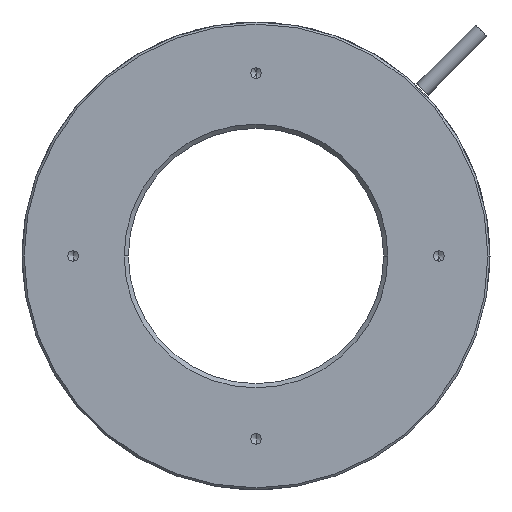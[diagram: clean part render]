
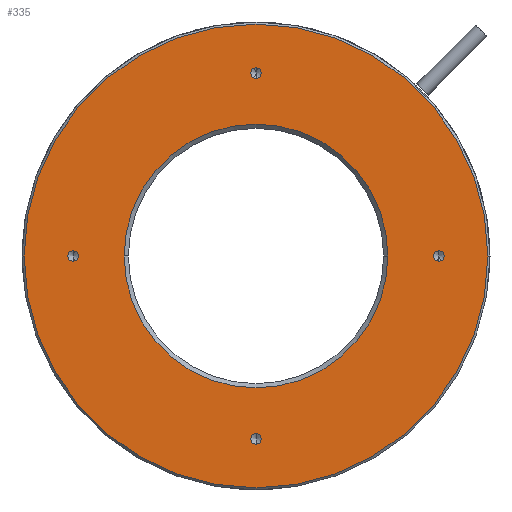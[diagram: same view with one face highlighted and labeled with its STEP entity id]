
A CAD part, front view. The second image highlights one B-rep face of the part: STEP entity #335.
In plain terms, the highlighted planar face has unit normal (0, -1, 0).
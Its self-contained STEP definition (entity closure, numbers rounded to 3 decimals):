
#108 = CARTESIAN_POINT ( 'NONE',  ( 0., 0., 0. ) ) ;
#305 = EDGE_LOOP ( 'NONE', ( #8584, #12136 ) ) ;
#335 = ADVANCED_FACE ( 'NONE', ( #19109, #19640, #13768, #21756, #14548, #1663 ), #7866, .T. ) ;
#746 = DIRECTION ( 'NONE',  ( 0., 1., 0. ) ) ;
#938 = ORIENTED_EDGE ( 'NONE', *, *, #7507, .T. ) ;
#983 = VERTEX_POINT ( 'NONE', #8697 ) ;
#1010 = DIRECTION ( 'NONE',  ( 0., 0., -1. ) ) ;
#1380 = DIRECTION ( 'NONE',  ( 1., 0., 0. ) ) ;
#1663 = FACE_BOUND ( 'NONE', #10806, .T. ) ;
#1853 = EDGE_CURVE ( 'NONE', #14786, #20976, #8643, .T. ) ;
#1994 = CIRCLE ( 'NONE', #20593, 54.5 ) ;
#2002 = CIRCLE ( 'NONE', #5621, 31. ) ;
#2133 = VERTEX_POINT ( 'NONE', #18318 ) ;
#2411 = DIRECTION ( 'NONE',  ( 1., 0., 0. ) ) ;
#2648 = CARTESIAN_POINT ( 'NONE',  ( 31., 0., 0. ) ) ;
#2736 = CIRCLE ( 'NONE', #5163, 1.25 ) ;
#2929 = DIRECTION ( 'NONE',  ( 1., 0., 0. ) ) ;
#3157 = VERTEX_POINT ( 'NONE', #18964 ) ;
#3221 = DIRECTION ( 'NONE',  ( 0., -1., 0. ) ) ;
#3386 = ORIENTED_EDGE ( 'NONE', *, *, #10053, .F. ) ;
#3578 = CARTESIAN_POINT ( 'NONE',  ( -43., 0., -1.25 ) ) ;
#4401 = EDGE_CURVE ( 'NONE', #10328, #18648, #1994, .T. ) ;
#4517 = DIRECTION ( 'NONE',  ( 0., -1., 0. ) ) ;
#4679 = CARTESIAN_POINT ( 'NONE',  ( 0., 0., -44.25 ) ) ;
#4753 = ORIENTED_EDGE ( 'NONE', *, *, #13261, .F. ) ;
#4819 = DIRECTION ( 'NONE',  ( 0., -1., 0. ) ) ;
#4927 = EDGE_CURVE ( 'NONE', #18343, #19855, #2736, .T. ) ;
#5008 = EDGE_LOOP ( 'NONE', ( #20722, #12158 ) ) ;
#5013 = VERTEX_POINT ( 'NONE', #4679 ) ;
#5099 = AXIS2_PLACEMENT_3D ( 'NONE', #8364, #3221, #15133 ) ;
#5163 = AXIS2_PLACEMENT_3D ( 'NONE', #16369, #17873, #11185 ) ;
#5621 = AXIS2_PLACEMENT_3D ( 'NONE', #13131, #11375, #1380 ) ;
#5739 = CARTESIAN_POINT ( 'NONE',  ( 43., 0., 1.25 ) ) ;
#5913 = DIRECTION ( 'NONE',  ( 0., 0., -1. ) ) ;
#5920 = EDGE_CURVE ( 'NONE', #5013, #9248, #8736, .T. ) ;
#5943 = AXIS2_PLACEMENT_3D ( 'NONE', #18064, #8005, #16347 ) ;
#6007 = CARTESIAN_POINT ( 'NONE',  ( 0., 0., 43. ) ) ;
#6812 = ORIENTED_EDGE ( 'NONE', *, *, #1853, .T. ) ;
#7184 = AXIS2_PLACEMENT_3D ( 'NONE', #6007, #10744, #1010 ) ;
#7507 = EDGE_CURVE ( 'NONE', #20976, #14786, #2002, .T. ) ;
#7708 = CARTESIAN_POINT ( 'NONE',  ( 0., 0., 0. ) ) ;
#7762 = DIRECTION ( 'NONE',  ( 0., 0., -1. ) ) ;
#7866 = PLANE ( 'NONE',  #5943 ) ;
#8005 = DIRECTION ( 'NONE',  ( 0., -1., 0. ) ) ;
#8364 = CARTESIAN_POINT ( 'NONE',  ( 43., 0., 0. ) ) ;
#8531 = EDGE_LOOP ( 'NONE', ( #938, #6812 ) ) ;
#8584 = ORIENTED_EDGE ( 'NONE', *, *, #5920, .F. ) ;
#8595 = ORIENTED_EDGE ( 'NONE', *, *, #4927, .F. ) ;
#8643 = CIRCLE ( 'NONE', #12586, 31. ) ;
#8697 = CARTESIAN_POINT ( 'NONE',  ( 0., 0., 44.25 ) ) ;
#8736 = CIRCLE ( 'NONE', #10764, 1.25 ) ;
#9101 = DIRECTION ( 'NONE',  ( 0., -1., 0. ) ) ;
#9248 = VERTEX_POINT ( 'NONE', #11934 ) ;
#9432 = CARTESIAN_POINT ( 'NONE',  ( 43., 0., -1.25 ) ) ;
#9695 = EDGE_CURVE ( 'NONE', #2133, #983, #21190, .T. ) ;
#10053 = EDGE_CURVE ( 'NONE', #19855, #18343, #15174, .T. ) ;
#10328 = VERTEX_POINT ( 'NONE', #19178 ) ;
#10660 = DIRECTION ( 'NONE',  ( 0., -1., 0. ) ) ;
#10744 = DIRECTION ( 'NONE',  ( 0., -1., 0. ) ) ;
#10764 = AXIS2_PLACEMENT_3D ( 'NONE', #14884, #4819, #18304 ) ;
#10806 = EDGE_LOOP ( 'NONE', ( #4753, #20081 ) ) ;
#10907 = CARTESIAN_POINT ( 'NONE',  ( 0., 0., 0. ) ) ;
#10960 = CARTESIAN_POINT ( 'NONE',  ( -43., 0., 0. ) ) ;
#11185 = DIRECTION ( 'NONE',  ( 0., 0., -1. ) ) ;
#11375 = DIRECTION ( 'NONE',  ( 0., 1., 0. ) ) ;
#11476 = EDGE_CURVE ( 'NONE', #9248, #5013, #18412, .T. ) ;
#11755 = VERTEX_POINT ( 'NONE', #3578 ) ;
#11934 = CARTESIAN_POINT ( 'NONE',  ( 0., 0., -41.75 ) ) ;
#12045 = ORIENTED_EDGE ( 'NONE', *, *, #9695, .F. ) ;
#12136 = ORIENTED_EDGE ( 'NONE', *, *, #11476, .F. ) ;
#12158 = ORIENTED_EDGE ( 'NONE', *, *, #4401, .T. ) ;
#12306 = CARTESIAN_POINT ( 'NONE',  ( -43., 0., 0. ) ) ;
#12586 = AXIS2_PLACEMENT_3D ( 'NONE', #10907, #746, #2411 ) ;
#12820 = CIRCLE ( 'NONE', #17595, 1.25 ) ;
#13131 = CARTESIAN_POINT ( 'NONE',  ( 0., 0., 0. ) ) ;
#13261 = EDGE_CURVE ( 'NONE', #11755, #3157, #17676, .T. ) ;
#13610 = ORIENTED_EDGE ( 'NONE', *, *, #18855, .F. ) ;
#13768 = FACE_BOUND ( 'NONE', #19478, .T. ) ;
#14194 = EDGE_CURVE ( 'NONE', #18648, #10328, #18687, .T. ) ;
#14470 = CARTESIAN_POINT ( 'NONE',  ( 0., 0., -43. ) ) ;
#14548 = FACE_BOUND ( 'NONE', #305, .T. ) ;
#14786 = VERTEX_POINT ( 'NONE', #19916 ) ;
#14884 = CARTESIAN_POINT ( 'NONE',  ( 0., 0., -43. ) ) ;
#15133 = DIRECTION ( 'NONE',  ( 0., 0., -1. ) ) ;
#15150 = AXIS2_PLACEMENT_3D ( 'NONE', #10960, #4517, #21084 ) ;
#15174 = CIRCLE ( 'NONE', #5099, 1.25 ) ;
#15359 = EDGE_CURVE ( 'NONE', #3157, #11755, #12820, .T. ) ;
#15459 = AXIS2_PLACEMENT_3D ( 'NONE', #108, #20112, #18524 ) ;
#15882 = DIRECTION ( 'NONE',  ( 0., 0., -1. ) ) ;
#15952 = AXIS2_PLACEMENT_3D ( 'NONE', #14470, #21044, #7762 ) ;
#16347 = DIRECTION ( 'NONE',  ( 1., 0., 0. ) ) ;
#16369 = CARTESIAN_POINT ( 'NONE',  ( 43., 0., 0. ) ) ;
#17044 = EDGE_LOOP ( 'NONE', ( #8595, #3386 ) ) ;
#17595 = AXIS2_PLACEMENT_3D ( 'NONE', #12306, #9101, #15882 ) ;
#17676 = CIRCLE ( 'NONE', #15150, 1.25 ) ;
#17873 = DIRECTION ( 'NONE',  ( 0., -1., 0. ) ) ;
#18064 = CARTESIAN_POINT ( 'NONE',  ( 0., 0., 0. ) ) ;
#18084 = AXIS2_PLACEMENT_3D ( 'NONE', #19379, #10660, #5913 ) ;
#18304 = DIRECTION ( 'NONE',  ( 0., 0., -1. ) ) ;
#18318 = CARTESIAN_POINT ( 'NONE',  ( 0., 0., 41.75 ) ) ;
#18343 = VERTEX_POINT ( 'NONE', #9432 ) ;
#18412 = CIRCLE ( 'NONE', #15952, 1.25 ) ;
#18524 = DIRECTION ( 'NONE',  ( 1., 0., 0. ) ) ;
#18648 = VERTEX_POINT ( 'NONE', #20353 ) ;
#18687 = CIRCLE ( 'NONE', #15459, 54.5 ) ;
#18855 = EDGE_CURVE ( 'NONE', #983, #2133, #19442, .T. ) ;
#18964 = CARTESIAN_POINT ( 'NONE',  ( -43., 0., 1.25 ) ) ;
#19109 = FACE_OUTER_BOUND ( 'NONE', #5008, .T. ) ;
#19178 = CARTESIAN_POINT ( 'NONE',  ( 54.5, 0., 0. ) ) ;
#19379 = CARTESIAN_POINT ( 'NONE',  ( 0., 0., 43. ) ) ;
#19442 = CIRCLE ( 'NONE', #18084, 1.25 ) ;
#19478 = EDGE_LOOP ( 'NONE', ( #12045, #13610 ) ) ;
#19640 = FACE_BOUND ( 'NONE', #8531, .T. ) ;
#19855 = VERTEX_POINT ( 'NONE', #5739 ) ;
#19916 = CARTESIAN_POINT ( 'NONE',  ( -31., 0., 0. ) ) ;
#20081 = ORIENTED_EDGE ( 'NONE', *, *, #15359, .F. ) ;
#20112 = DIRECTION ( 'NONE',  ( 0., -1., 0. ) ) ;
#20353 = CARTESIAN_POINT ( 'NONE',  ( -54.5, 0., 0. ) ) ;
#20593 = AXIS2_PLACEMENT_3D ( 'NONE', #7708, #21419, #2929 ) ;
#20722 = ORIENTED_EDGE ( 'NONE', *, *, #14194, .T. ) ;
#20976 = VERTEX_POINT ( 'NONE', #2648 ) ;
#21044 = DIRECTION ( 'NONE',  ( 0., -1., 0. ) ) ;
#21084 = DIRECTION ( 'NONE',  ( 0., 0., -1. ) ) ;
#21190 = CIRCLE ( 'NONE', #7184, 1.25 ) ;
#21419 = DIRECTION ( 'NONE',  ( 0., -1., 0. ) ) ;
#21756 = FACE_BOUND ( 'NONE', #17044, .T. ) ;
